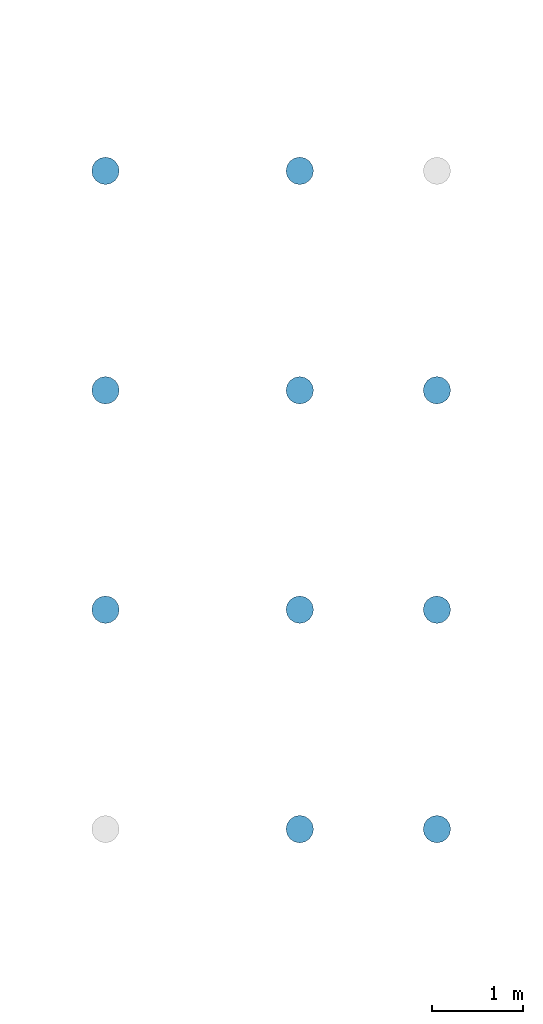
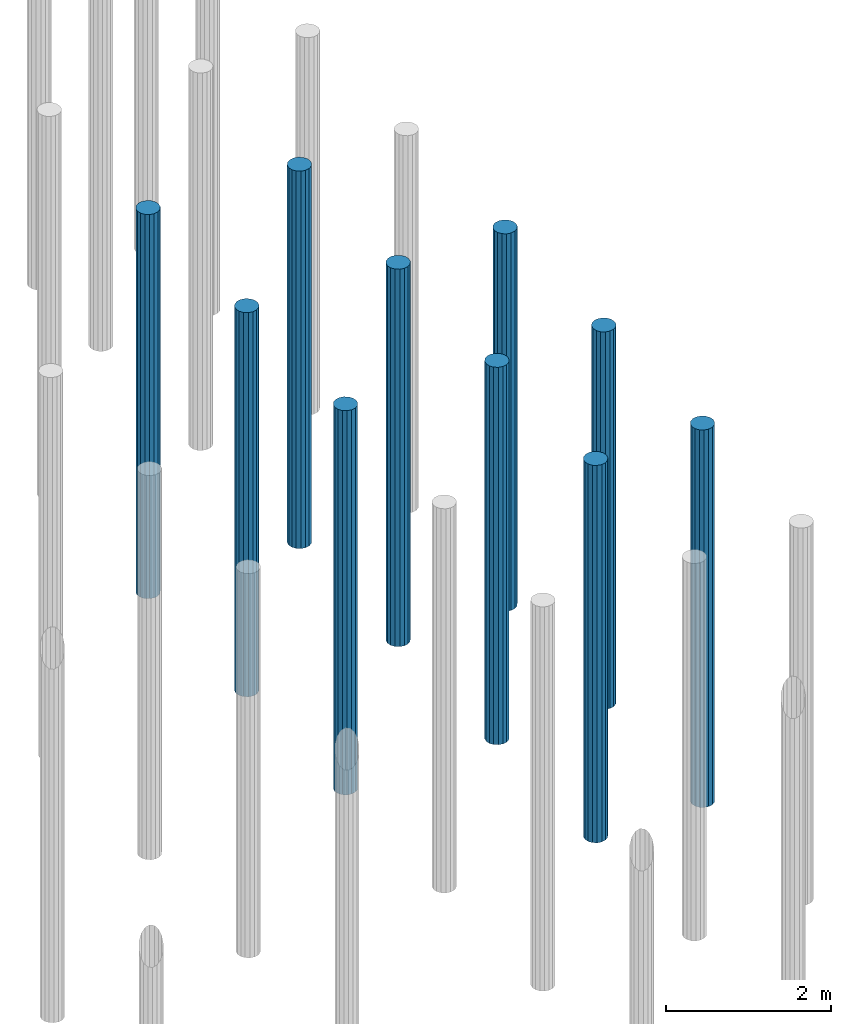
# One storey, part 99 of 102: 10 slabs.
"""IFC2X3 building model written with IfcOpenShell, lengths in millimetres."""

import ifcopenshell
import ifcopenshell.guid

model = None  # the IFC model being written
_history = None  # IfcOwnerHistory: only IFC2X3 demands one
_inside = {}  # id of a spatial element -> (the spatial element, [elements in it])
_under = {}  # id of a project, library or spatial element -> (it, [spatial elements below it])
_declared = {}  # id of a project -> (the project, [libraries it declares])
_typed = {}  # id of a type object -> (the type object, [elements of that type])
_made_of = {}  # id of a material, layer set ... -> (it, [elements and type objects made of it])


def new_model(schema):
    """Start an empty IFC model of exactly this schema.

    Asked for "IFC4X3", IfcOpenShell would pick the latest addendum, in which some entities
    have other attributes; the version numbers below select the first issue.
    IFC2X3 requires an IfcOwnerHistory on every rooted entity: one is made here for all.
    """
    global model, _history
    if schema == "IFC4X3":
        model = ifcopenshell.file(schema_version=(4, 3, 0, 0))
    else:
        model = ifcopenshell.file(schema=schema)
    _inside.clear()
    _under.clear()
    _declared.clear()
    _typed.clear()
    _made_of.clear()
    _history = None
    if model.schema == "IFC2X3":
        org = make("IfcOrganization", Name="unknown")
        user = make(
            "IfcPersonAndOrganization",
            ThePerson=make("IfcPerson", FamilyName="unknown"),
            TheOrganization=org,
        )
        app = make(
            "IfcApplication",
            ApplicationDeveloper=org,
            Version="unknown",
            ApplicationFullName="unknown",
            ApplicationIdentifier="unknown",
        )
        _history = make(
            "IfcOwnerHistory",
            OwningUser=user,
            OwningApplication=app,
            ChangeAction="ADDED",
            CreationDate=0,
        )
    return model


def make(cls, **values):
    """One entity of the class cls with the attributes given. An attribute that is None is left unset."""
    return model.create_entity(
        cls, **{name: value for name, value in values.items() if value is not None}
    )


def entity(cls, *values):
    """Any entity or typed value of the class cls, its attributes in the order of the schema. None: left unset."""
    e = model.create_entity(cls)
    for i, value in enumerate(values):
        if value is not None:
            e[i] = value
    return e


def rooted(cls, **values):
    """An entity with a GlobalId (a new one), such as an element, a storey or a relation."""
    return make(cls, GlobalId=ifcopenshell.guid.new(), OwnerHistory=_history, **values)


def si_unit(unit_type, name, prefix=None):
    """IfcSIUnit, for example si_unit("LENGTHUNIT", "METRE", prefix="MILLI")."""
    return make("IfcSIUnit", UnitType=unit_type, Prefix=prefix, Name=name)


def converted_unit(unit_type, name, factor, base, dimensions=None, offset=None):
    """IfcConversionBasedUnit, such as the inch: factor (a typed value) times the base unit."""
    return make(
        "IfcConversionBasedUnit"
        if offset is None
        else "IfcConversionBasedUnitWithOffset",
        ConversionOffset=offset,
        Dimensions=None
        if dimensions is None
        else entity("IfcDimensionalExponents", *dimensions),
        UnitType=unit_type,
        Name=name,
        ConversionFactor=make(
            "IfcMeasureWithUnit", ValueComponent=factor, UnitComponent=base
        ),
    )


def derived_unit(unit_type, elements):
    """IfcDerivedUnit: a product of units, each with its exponent."""
    return make(
        "IfcDerivedUnit",
        Elements=[
            make("IfcDerivedUnitElement", Unit=unit, Exponent=power)
            for unit, power in elements
        ],
        UnitType=unit_type,
    )


def money_unit(currency):
    """IfcMonetaryUnit."""
    return make("IfcMonetaryUnit", Currency=currency)


def assignment(units):
    """IfcUnitAssignment: the units of a project."""
    return None if units is None else make("IfcUnitAssignment", Units=units)


def point(xyz):
    """IfcCartesianPoint."""
    return None if xyz is None else make("IfcCartesianPoint", Coordinates=xyz)


def direction(xyz):
    """IfcDirection."""
    return None if xyz is None else make("IfcDirection", DirectionRatios=xyz)


def frame(location, z_axis=None, x_axis=None):
    """IfcAxis2Placement3D, a coordinate frame: its origin and axes. An axis left out is left unset."""
    return make(
        "IfcAxis2Placement3D",
        Location=point(location),
        Axis=direction(z_axis),
        RefDirection=direction(x_axis),
    )


def origin_with_axes():
    """The frame at (0, 0, 0) with the z axis (0, 0, 1) and the x axis (1, 0, 0) written out."""
    return frame((0.0, 0.0, 0.0), z_axis=(0.0, 0.0, 1.0), x_axis=(1.0, 0.0, 0.0))


def place(relative_to, where):
    """IfcLocalPlacement: puts the frame where relative to a parent placement (None: the world)."""
    return make(
        "IfcLocalPlacement", PlacementRelTo=relative_to, RelativePlacement=where
    )


def context(
    kind, dimensions, precision=None, world=None, true_north=None, identifier=None
):
    """IfcGeometricRepresentationContext, for example the 3D "Model" context."""
    return make(
        "IfcGeometricRepresentationContext",
        ContextIdentifier=identifier,
        ContextType=kind,
        CoordinateSpaceDimension=dimensions,
        Precision=precision,
        WorldCoordinateSystem=world,
        TrueNorth=true_north,
    )


def subcontext(parent, identifier, kind, view, scale=None):
    """IfcGeometricRepresentationSubContext, for example "Body" below "Model"."""
    return make(
        "IfcGeometricRepresentationSubContext",
        ContextIdentifier=identifier,
        ContextType=kind,
        ParentContext=parent,
        TargetScale=scale,
        TargetView=view,
    )


def project(units=None, contexts=None):
    """IfcProject with its units and contexts."""
    return rooted(
        "IfcProject",
        Name="project",
        RepresentationContexts=contexts,
        UnitsInContext=assignment(units),
    )


def spatial(cls, under=None, at=None, **own):
    """A site, building, storey or space (cls), placed at a placement, below another one or the project."""
    s = rooted(cls, ObjectPlacement=at, **own)
    if under is not None:
        _under.setdefault(under.id(), (under, []))[1].append(s)
    return s


def faces_of(points, faces, orient=None, outer=None):
    """IfcFace entities. A face is a list of loops; a loop is a list of indices into points, from 0.

    orient and outer hold one flag for each loop. By default every Orientation is true, the
    first loop of a face is its IfcFaceOuterBound and the others are IfcFaceBound.
    """
    made = []
    for i, loops in enumerate(faces):
        bounds = []
        for j, loop in enumerate(loops):
            is_outer = j == 0 if outer is None else outer[i][j]
            bounds.append(
                make(
                    "IfcFaceOuterBound" if is_outer else "IfcFaceBound",
                    Bound=make("IfcPolyLoop", Polygon=[points[k] for k in loop]),
                    Orientation=True if orient is None else orient[i][j],
                )
            )
        made.append(make("IfcFace", Bounds=bounds))
    return made


def faceted_brep(points, faces, orient=None, outer=None, voids=None):
    """IfcFacetedBrep: a solid bounded by flat faces; with voids (closed shells), ...WithVoids."""
    shared = [point(p) for p in points]
    hull = make("IfcClosedShell", CfsFaces=faces_of(shared, faces, orient, outer))
    if voids is None:
        return make("IfcFacetedBrep", Outer=hull)
    return make(
        "IfcFacetedBrepWithVoids",
        Outer=hull,
        Voids=[
            make(cls, CfsFaces=faces_of(shared, fs, o, b)) for cls, fs, o, b in voids
        ],
    )


def shape(context_of_items, identifier, shape_type, items):
    """IfcShapeRepresentation: the items that make up one representation, for example the "Body"."""
    return make(
        "IfcShapeRepresentation",
        ContextOfItems=context_of_items,
        RepresentationIdentifier=identifier,
        RepresentationType=shape_type,
        Items=items,
    )


def material(Name=None, Category=None):
    """IfcMaterial."""
    return make("IfcMaterial", Name=Name, Category=Category)


def made_of(thing, what):
    """Note that an element or type object is made of a material, layer set ...; save() writes the relation."""
    if what is not None:
        _made_of.setdefault(what.id(), (what, []))[1].append(thing)
    return thing


def type_object(cls, material=None, **own):
    """A type object (cls), such as IfcWallType, which elements share."""
    return made_of(rooted(cls, **own), material)


def element(
    cls,
    number,
    at=None,
    inside=None,
    cuts=None,
    type_object=None,
    material=None,
    context=None,
    identifier="Body",
    shape_type=None,
    held_by="IfcProductDefinitionShape",
    body=None,
    shapes=None,
    **own,
):
    """One element of the class cls, such as IfcWall. Its Tag is "e" and its number.

    at: its placement. inside: the storey or other place that contains it. cuts: it is an
    opening in that element (IfcRelVoidsElement). A single representation is given by context,
    identifier, shape_type and body (its items); several are given by shapes. held_by: the class
    of the entity that holds the representations. save() writes the other relations.
    """
    e = rooted(cls, Tag="e%d" % number, ObjectPlacement=at, **own)
    if body is not None:
        shapes = [shape(context, identifier, shape_type, body)]
    if shapes is not None:
        e.Representation = make(held_by, Representations=shapes)
    if inside is not None:
        _inside.setdefault(inside.id(), (inside, []))[1].append(e)
    if cuts is not None:
        rooted(
            "IfcRelVoidsElement", RelatingBuildingElement=cuts, RelatedOpeningElement=e
        )
    if type_object is not None:
        _typed.setdefault(type_object.id(), (type_object, []))[1].append(e)
    return made_of(e, material)


def aggregate(whole, parts):
    """IfcRelAggregates: a whole, such as a stair, and the parts it consists of."""
    return rooted("IfcRelAggregates", RelatingObject=whole, RelatedObjects=parts)


def save(model, path):
    """Write the relations noted so far, then the file.

    IfcRelAggregates (storeys below a building ...), IfcRelContainedInSpatialStructure (elements
    in a storey), IfcRelDefinesByType, IfcRelAssociatesMaterial and IfcRelDeclares: one each for
    every whole, place, type object, material and project.
    """
    for whole, parts in _under.values():
        aggregate(whole, parts)
    for where, things in _inside.values():
        rooted(
            "IfcRelContainedInSpatialStructure",
            RelatedElements=things,
            RelatingStructure=where,
        )
    for kind, things in _typed.values():
        rooted("IfcRelDefinesByType", RelatedObjects=things, RelatingType=kind)
    for what, things in _made_of.values():
        rooted("IfcRelAssociatesMaterial", RelatedObjects=things, RelatingMaterial=what)
    for by, libraries in _declared.values():
        rooted("IfcRelDeclares", RelatingContext=by, RelatedDefinitions=libraries)
    model.write(path)


model = new_model("IFC2X3")

# Units and contexts
model_context = context("Model", 3, precision=0.01, world=origin_with_axes(), true_north=direction((0.0, 1.0)))
body_context = subcontext(model_context, "Body", "Model", "MODEL_VIEW")
ifc_project = project(units=[si_unit("LENGTHUNIT", "METRE", prefix="MILLI"), si_unit("AREAUNIT", "SQUARE_METRE"), si_unit("VOLUMEUNIT", "CUBIC_METRE"), converted_unit("PLANEANGLEUNIT", "DEGREE", entity("IfcPlaneAngleMeasure", 0.0174532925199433), si_unit("PLANEANGLEUNIT", "RADIAN"), dimensions=[0, 0, 0, 0, 0, 0, 0]), money_unit("EUR"), converted_unit("TIMEUNIT", "Year", entity("IfcTimeMeasure", 31557600.0), si_unit("TIMEUNIT", "SECOND"), dimensions=[0, 0, 1, 0, 0, 0, 0]), si_unit("MASSUNIT", "GRAM", prefix="KILO"), si_unit("THERMODYNAMICTEMPERATUREUNIT", "DEGREE_CELSIUS"), si_unit("LUMINOUSINTENSITYUNIT", "LUMEN"), si_unit("ENERGYUNIT", "JOULE", prefix="MEGA"), derived_unit("THERMALCONDUCTANCEUNIT", [(si_unit("POWERUNIT", "WATT"), 1), (si_unit("LENGTHUNIT", "METRE"), -1), (si_unit("THERMODYNAMICTEMPERATUREUNIT", "KELVIN"), -1)]), derived_unit("SPECIFICHEATCAPACITYUNIT", [(si_unit("ENERGYUNIT", "JOULE"), 1), (si_unit("MASSUNIT", "GRAM", prefix="KILO"), -1), (si_unit("THERMODYNAMICTEMPERATUREUNIT", "KELVIN"), -1)]), derived_unit("MASSDENSITYUNIT", [(si_unit("MASSUNIT", "GRAM", prefix="KILO"), 1), (si_unit("VOLUMEUNIT", "CUBIC_METRE"), -1)])], contexts=[model_context])

# Site, building, storey
site_placement = place(None, origin_with_axes())
site = spatial("IfcSite", under=ifc_project, at=site_placement, Name="Site", CompositionType="ELEMENT")
building_placement = place(site_placement, origin_with_axes())
building = spatial("IfcBuilding", under=site, at=building_placement, Name="Naam gebouw", CompositionType="ELEMENT")
storey_placement = place(building_placement, frame((0.0, 0.0, -1020.0), z_axis=(0.0, 0.0, 1.0), x_axis=(1.0, 0.0, 0.0)))
storey = spatial("IfcBuildingStorey", under=building, at=storey_placement, Name="-2 fundering", CompositionType="ELEMENT", Elevation=-1020.0)

# Slabs
ifc_material = material(Name="WSP_beton - ihwg beton")
slab_type_1 = type_object("IfcSlabType", Name="Slab 35", PredefinedType="NOTDEFINED")
slab_1_placement = place(storey_placement, frame((25299.99999999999, 30000.0, 979.9999952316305), z_axis=(0.0, 0.0, 1.0), x_axis=(1.0, 0.0, 0.0)))
element("IfcSlab", 1, at=slab_1_placement, inside=storey, type_object=slab_type_1, material=ifc_material, Name="17_WSP_FD_beton - fundatiepaal v21-2:ø300 (schroef)", PredefinedType="NOTDEFINED", context=body_context, shape_type="Brep", body=[
    faceted_brep([(101501.0, 80801.0, -5980.0), (101499.0, 80801.0, -5980.0), (101499.0, 80801.0, -5978.000000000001), (101501.0, 80801.0, -5978.000000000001), (101501.0, 80798.99999999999, -5980.0), (101499.0, 80798.99999999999, -5980.0), (101499.0, 80798.99999999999, -5978.000000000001), (101501.0, 80798.99999999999, -5978.000000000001)], [[[0, 1, 2, 3]], [[0, 4, 5, 1]], [[1, 5, 6, 2]], [[3, 2, 6, 7]], [[4, 0, 3, 7]], [[5, 4, 7, 6]]]),
    faceted_brep([(101350.0, 80800.0, -5980.0), (101361.4180701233, 80742.59748514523, -5980.0), (101361.4180701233, 80742.59748514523, -380.0000000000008), (101350.0, 80800.0, -380.0000000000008), (101361.4180701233, 80857.40251485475, -5980.0), (101393.933982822, 80906.06601717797, -5980.0), (101442.5974851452, 80938.58192987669, -5980.0), (101500.0, 80950.0, -5980.0), (101557.4025148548, 80938.58192987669, -5980.0), (101606.066017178, 80906.06601717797, -5980.0), (101638.5819298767, 80857.40251485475, -5980.0), (101650.0, 80800.0, -5980.0), (101638.5819298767, 80742.59748514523, -5980.0), (101606.066017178, 80693.93398282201, -5980.0), (101557.4025148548, 80661.4180701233, -5980.0), (101500.0, 80649.99999999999, -5980.0), (101442.5974851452, 80661.4180701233, -5980.0), (101393.933982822, 80693.93398282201, -5980.0), (101393.933982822, 80693.93398282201, -380.0000000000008), (101442.5974851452, 80661.4180701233, -380.0000000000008), (101500.0, 80649.99999999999, -380.0000000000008), (101557.4025148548, 80661.4180701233, -380.0000000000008), (101606.066017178, 80693.93398282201, -380.0000000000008), (101638.5819298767, 80742.59748514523, -380.0000000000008), (101650.0, 80800.0, -380.0000000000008), (101638.5819298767, 80857.40251485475, -380.0000000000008), (101606.066017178, 80906.06601717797, -380.0000000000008), (101557.4025148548, 80938.58192987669, -380.0000000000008), (101500.0, 80950.0, -380.0000000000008), (101442.5974851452, 80938.58192987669, -380.0000000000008), (101393.933982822, 80906.06601717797, -380.0000000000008), (101361.4180701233, 80857.40251485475, -380.0000000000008)], [[[0, 1, 2, 3]], [[0, 4, 5, 6, 7, 8, 9, 10, 11, 12, 13, 14, 15, 16, 17, 1]], [[1, 17, 18, 2]], [[3, 2, 18, 19, 20, 21, 22, 23, 24, 25, 26, 27, 28, 29, 30, 31]], [[4, 0, 3, 31]], [[5, 4, 31, 30]], [[6, 5, 30, 29]], [[7, 6, 29, 28]], [[8, 7, 28, 27]], [[9, 8, 27, 26]], [[10, 9, 26, 25]], [[11, 10, 25, 24]], [[12, 11, 24, 23]], [[13, 12, 23, 22]], [[14, 13, 22, 21]], [[15, 14, 21, 20]], [[16, 15, 20, 19]], [[17, 16, 19, 18]]]),
])
slab_type_2 = type_object("IfcSlabType", Name="Slab 34", PredefinedType="NOTDEFINED")
slab_2_placement = place(storey_placement, frame((25299.99999999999, 30000.0, 979.9999952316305), z_axis=(0.0, 0.0, 1.0), x_axis=(1.0, 0.0, 0.0)))
element("IfcSlab", 2, at=slab_2_placement, inside=storey, type_object=slab_type_2, material=ifc_material, Name="17_WSP_FD_beton - fundatiepaal v21-2:ø300 (schroef)", PredefinedType="NOTDEFINED", context=body_context, shape_type="Brep", body=[
    faceted_brep([(100001.0, 80801.0, -5980.0), (99999.0, 80801.0, -5980.0), (99999.0, 80801.0, -5978.000000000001), (100001.0, 80801.0, -5978.000000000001), (100001.0, 80798.99999999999, -5980.0), (99999.0, 80798.99999999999, -5980.0), (99999.0, 80798.99999999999, -5978.000000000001), (100001.0, 80798.99999999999, -5978.000000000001)], [[[0, 1, 2, 3]], [[0, 4, 5, 1]], [[1, 5, 6, 2]], [[3, 2, 6, 7]], [[4, 0, 3, 7]], [[5, 4, 7, 6]]]),
    faceted_brep([(99850.0, 80800.0, -5980.0), (99861.41807012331, 80742.59748514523, -5980.0), (99861.41807012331, 80742.59748514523, -380.0000000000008), (99850.0, 80800.0, -380.0000000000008), (99861.41807012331, 80857.40251485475, -5980.0), (99893.93398282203, 80906.06601717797, -5980.0), (99942.59748514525, 80938.58192987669, -5980.0), (100000.0, 80950.0, -5980.0), (100057.4025148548, 80938.58192987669, -5980.0), (100106.066017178, 80906.06601717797, -5980.0), (100138.5819298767, 80857.40251485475, -5980.0), (100150.0, 80800.0, -5980.0), (100138.5819298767, 80742.59748514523, -5980.0), (100106.066017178, 80693.93398282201, -5980.0), (100057.4025148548, 80661.4180701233, -5980.0), (100000.0, 80649.99999999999, -5980.0), (99942.59748514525, 80661.4180701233, -5980.0), (99893.93398282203, 80693.93398282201, -5980.0), (99893.93398282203, 80693.93398282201, -380.0000000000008), (99942.59748514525, 80661.4180701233, -380.0000000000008), (100000.0, 80649.99999999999, -380.0000000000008), (100057.4025148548, 80661.4180701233, -380.0000000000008), (100106.066017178, 80693.93398282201, -380.0000000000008), (100138.5819298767, 80742.59748514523, -380.0000000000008), (100150.0, 80800.0, -380.0000000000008), (100138.5819298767, 80857.40251485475, -380.0000000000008), (100106.066017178, 80906.06601717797, -380.0000000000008), (100057.4025148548, 80938.58192987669, -380.0000000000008), (100000.0, 80950.0, -380.0000000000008), (99942.59748514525, 80938.58192987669, -380.0000000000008), (99893.93398282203, 80906.06601717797, -380.0000000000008), (99861.41807012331, 80857.40251485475, -380.0000000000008)], [[[0, 1, 2, 3]], [[0, 4, 5, 6, 7, 8, 9, 10, 11, 12, 13, 14, 15, 16, 17, 1]], [[1, 17, 18, 2]], [[3, 2, 18, 19, 20, 21, 22, 23, 24, 25, 26, 27, 28, 29, 30, 31]], [[4, 0, 3, 31]], [[5, 4, 31, 30]], [[6, 5, 30, 29]], [[7, 6, 29, 28]], [[8, 7, 28, 27]], [[9, 8, 27, 26]], [[10, 9, 26, 25]], [[11, 10, 25, 24]], [[12, 11, 24, 23]], [[13, 12, 23, 22]], [[14, 13, 22, 21]], [[15, 14, 21, 20]], [[16, 15, 20, 19]], [[17, 16, 19, 18]]]),
])
slab_type_3 = type_object("IfcSlabType", Name="Slab 37", PredefinedType="NOTDEFINED")
slab_3_placement = place(storey_placement, frame((25299.99999999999, 30000.0, 979.9999952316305), z_axis=(0.0, 0.0, 1.0), x_axis=(1.0, 0.0, 0.0)))
element("IfcSlab", 3, at=slab_3_placement, inside=storey, type_object=slab_type_3, material=ifc_material, Name="17_WSP_FD_beton - fundatiepaal v21-2:ø300 (schroef)", PredefinedType="NOTDEFINED", context=body_context, shape_type="Brep", body=[
    faceted_brep([(97876.0, 80801.0, -5980.0), (97874.0, 80801.0, -5980.0), (97874.0, 80801.0, -5978.000000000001), (97876.0, 80801.0, -5978.000000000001), (97876.0, 80798.99999999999, -5980.0), (97874.0, 80798.99999999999, -5980.0), (97874.0, 80798.99999999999, -5978.000000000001), (97876.0, 80798.99999999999, -5978.000000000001)], [[[0, 1, 2, 3]], [[0, 4, 5, 1]], [[1, 5, 6, 2]], [[3, 2, 6, 7]], [[4, 0, 3, 7]], [[5, 4, 7, 6]]]),
    faceted_brep([(97725.0, 80800.0, -5980.0), (97736.41807012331, 80742.59748514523, -5980.0), (97736.41807012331, 80742.59748514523, -280.0000000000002), (97725.0, 80800.0, -280.0000000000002), (97736.41807012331, 80857.40251485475, -5980.0), (97768.93398282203, 80906.06601717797, -5980.0), (97817.59748514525, 80938.58192987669, -5980.0), (97875.0, 80950.0, -5980.0), (97932.40251485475, 80938.58192987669, -5980.0), (97981.06601717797, 80906.06601717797, -5980.0), (98013.58192987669, 80857.40251485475, -5980.0), (98025.0, 80800.0, -5980.0), (98013.58192987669, 80742.59748514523, -5980.0), (97981.06601717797, 80693.93398282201, -5980.0), (97932.40251485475, 80661.4180701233, -5980.0), (97875.0, 80649.99999999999, -5980.0), (97817.59748514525, 80661.4180701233, -5980.0), (97768.93398282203, 80693.93398282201, -5980.0), (97768.93398282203, 80693.93398282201, -280.0000000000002), (97817.59748514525, 80661.4180701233, -280.0000000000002), (97875.0, 80649.99999999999, -280.0000000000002), (97932.40251485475, 80661.4180701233, -280.0000000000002), (97981.06601717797, 80693.93398282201, -280.0000000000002), (98013.58192987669, 80742.59748514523, -280.0000000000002), (98025.0, 80800.0, -280.0000000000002), (98013.58192987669, 80857.40251485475, -280.0000000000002), (97981.06601717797, 80906.06601717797, -280.0000000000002), (97932.40251485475, 80938.58192987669, -280.0000000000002), (97875.0, 80950.0, -280.0000000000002), (97817.59748514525, 80938.58192987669, -280.0000000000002), (97768.93398282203, 80906.06601717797, -280.0000000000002), (97736.41807012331, 80857.40251485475, -280.0000000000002)], [[[0, 1, 2, 3]], [[0, 4, 5, 6, 7, 8, 9, 10, 11, 12, 13, 14, 15, 16, 17, 1]], [[1, 17, 18, 2]], [[3, 2, 18, 19, 20, 21, 22, 23, 24, 25, 26, 27, 28, 29, 30, 31]], [[4, 0, 3, 31]], [[5, 4, 31, 30]], [[6, 5, 30, 29]], [[7, 6, 29, 28]], [[8, 7, 28, 27]], [[9, 8, 27, 26]], [[10, 9, 26, 25]], [[11, 10, 25, 24]], [[12, 11, 24, 23]], [[13, 12, 23, 22]], [[14, 13, 22, 21]], [[15, 14, 21, 20]], [[16, 15, 20, 19]], [[17, 16, 19, 18]]]),
])
slab_type_4 = type_object("IfcSlabType", Name="Slab 855", PredefinedType="NOTDEFINED")
slab_4_placement = place(storey_placement, frame((25299.99999999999, 30000.0, 979.9999952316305), z_axis=(0.0, 0.0, 1.0), x_axis=(1.0, 0.0, 0.0)))
element("IfcSlab", 4, at=slab_4_placement, inside=storey, type_object=slab_type_4, material=ifc_material, Name="17_WSP_FD_beton - fundatiepaal v21-2:ø300 (schroef)", PredefinedType="NOTDEFINED", context=body_context, shape_type="Brep", body=[
    faceted_brep([(97876.0, 83201.00000000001, -5980.0), (97874.0, 83201.00000000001, -5980.0), (97874.0, 83201.00000000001, -5978.000000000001), (97876.0, 83201.00000000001, -5978.000000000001), (97876.0, 83199.0, -5980.0), (97874.0, 83199.0, -5980.0), (97874.0, 83199.0, -5978.000000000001), (97876.0, 83199.0, -5978.000000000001)], [[[0, 1, 2, 3]], [[0, 4, 5, 1]], [[1, 5, 6, 2]], [[3, 2, 6, 7]], [[4, 0, 3, 7]], [[5, 4, 7, 6]]]),
    faceted_brep([(97725.0, 83200.0, -5980.0), (97736.41807012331, 83142.59748514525, -5980.0), (97736.41807012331, 83142.59748514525, -280.0000000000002), (97725.0, 83200.0, -280.0000000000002), (97736.41807012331, 83257.40251485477, -5980.0), (97768.93398282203, 83306.06601717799, -5980.0), (97817.59748514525, 83338.5819298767, -5980.0), (97875.0, 83350.00000000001, -5980.0), (97932.40251485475, 83338.5819298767, -5980.0), (97981.06601717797, 83306.06601717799, -5980.0), (98013.58192987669, 83257.40251485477, -5980.0), (98025.0, 83200.0, -5980.0), (98013.58192987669, 83142.59748514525, -5980.0), (97981.06601717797, 83093.93398282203, -5980.0), (97932.40251485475, 83061.41807012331, -5980.0), (97875.0, 83050.0, -5980.0), (97817.59748514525, 83061.41807012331, -5980.0), (97768.93398282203, 83093.93398282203, -5980.0), (97768.93398282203, 83093.93398282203, -280.0000000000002), (97817.59748514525, 83061.41807012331, -280.0000000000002), (97875.0, 83050.0, -280.0000000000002), (97932.40251485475, 83061.41807012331, -280.0000000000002), (97981.06601717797, 83093.93398282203, -280.0000000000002), (98013.58192987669, 83142.59748514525, -280.0000000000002), (98025.0, 83200.0, -280.0000000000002), (98013.58192987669, 83257.40251485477, -280.0000000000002), (97981.06601717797, 83306.06601717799, -280.0000000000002), (97932.40251485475, 83338.5819298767, -280.0000000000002), (97875.0, 83350.00000000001, -280.0000000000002), (97817.59748514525, 83338.5819298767, -280.0000000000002), (97768.93398282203, 83306.06601717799, -280.0000000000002), (97736.41807012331, 83257.40251485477, -280.0000000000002)], [[[0, 1, 2, 3]], [[0, 4, 5, 6, 7, 8, 9, 10, 11, 12, 13, 14, 15, 16, 17, 1]], [[1, 17, 18, 2]], [[3, 2, 18, 19, 20, 21, 22, 23, 24, 25, 26, 27, 28, 29, 30, 31]], [[4, 0, 3, 31]], [[5, 4, 31, 30]], [[6, 5, 30, 29]], [[7, 6, 29, 28]], [[8, 7, 28, 27]], [[9, 8, 27, 26]], [[10, 9, 26, 25]], [[11, 10, 25, 24]], [[12, 11, 24, 23]], [[13, 12, 23, 22]], [[14, 13, 22, 21]], [[15, 14, 21, 20]], [[16, 15, 20, 19]], [[17, 16, 19, 18]]]),
])
slab_type_5 = type_object("IfcSlabType", Name="Slab 856", PredefinedType="NOTDEFINED")
slab_5_placement = place(storey_placement, frame((25299.99999999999, 30000.0, 979.9999952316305), z_axis=(0.0, 0.0, 1.0), x_axis=(1.0, 0.0, 0.0)))
element("IfcSlab", 5, at=slab_5_placement, inside=storey, type_object=slab_type_5, material=ifc_material, Name="17_WSP_FD_beton - fundatiepaal v21-2:ø300 (schroef)", PredefinedType="NOTDEFINED", context=body_context, shape_type="Brep", body=[
    faceted_brep([(100001.0, 83201.00000000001, -5980.0), (99999.0, 83201.00000000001, -5980.0), (99999.0, 83201.00000000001, -5978.000000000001), (100001.0, 83201.00000000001, -5978.000000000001), (100001.0, 83199.0, -5980.0), (99999.0, 83199.0, -5980.0), (99999.0, 83199.0, -5978.000000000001), (100001.0, 83199.0, -5978.000000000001)], [[[0, 1, 2, 3]], [[0, 4, 5, 1]], [[1, 5, 6, 2]], [[3, 2, 6, 7]], [[4, 0, 3, 7]], [[5, 4, 7, 6]]]),
    faceted_brep([(99850.0, 83200.0, -5980.0), (99861.41807012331, 83142.59748514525, -5980.0), (99861.41807012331, 83142.59748514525, -380.0000000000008), (99850.0, 83200.0, -380.0000000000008), (99861.41807012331, 83257.40251485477, -5980.0), (99893.93398282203, 83306.06601717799, -5980.0), (99942.59748514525, 83338.5819298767, -5980.0), (100000.0, 83350.00000000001, -5980.0), (100057.4025148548, 83338.5819298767, -5980.0), (100106.066017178, 83306.06601717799, -5980.0), (100138.5819298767, 83257.40251485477, -5980.0), (100150.0, 83200.0, -5980.0), (100138.5819298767, 83142.59748514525, -5980.0), (100106.066017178, 83093.93398282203, -5980.0), (100057.4025148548, 83061.41807012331, -5980.0), (100000.0, 83050.0, -5980.0), (99942.59748514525, 83061.41807012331, -5980.0), (99893.93398282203, 83093.93398282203, -5980.0), (99893.93398282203, 83093.93398282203, -380.0000000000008), (99942.59748514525, 83061.41807012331, -380.0000000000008), (100000.0, 83050.0, -380.0000000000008), (100057.4025148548, 83061.41807012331, -380.0000000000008), (100106.066017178, 83093.93398282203, -380.0000000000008), (100138.5819298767, 83142.59748514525, -380.0000000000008), (100150.0, 83200.0, -380.0000000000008), (100138.5819298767, 83257.40251485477, -380.0000000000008), (100106.066017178, 83306.06601717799, -380.0000000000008), (100057.4025148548, 83338.5819298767, -380.0000000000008), (100000.0, 83350.00000000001, -380.0000000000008), (99942.59748514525, 83338.5819298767, -380.0000000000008), (99893.93398282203, 83306.06601717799, -380.0000000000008), (99861.41807012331, 83257.40251485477, -380.0000000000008)], [[[0, 1, 2, 3]], [[0, 4, 5, 6, 7, 8, 9, 10, 11, 12, 13, 14, 15, 16, 17, 1]], [[1, 17, 18, 2]], [[3, 2, 18, 19, 20, 21, 22, 23, 24, 25, 26, 27, 28, 29, 30, 31]], [[4, 0, 3, 31]], [[5, 4, 31, 30]], [[6, 5, 30, 29]], [[7, 6, 29, 28]], [[8, 7, 28, 27]], [[9, 8, 27, 26]], [[10, 9, 26, 25]], [[11, 10, 25, 24]], [[12, 11, 24, 23]], [[13, 12, 23, 22]], [[14, 13, 22, 21]], [[15, 14, 21, 20]], [[16, 15, 20, 19]], [[17, 16, 19, 18]]]),
])
slab_type_6 = type_object("IfcSlabType", Name="Slab 892", PredefinedType="NOTDEFINED")
slab_6_placement = place(storey_placement, frame((25299.99999999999, 30000.0, 979.9999952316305), z_axis=(0.0, 0.0, 1.0), x_axis=(1.0, 0.0, 0.0)))
element("IfcSlab", 6, at=slab_6_placement, inside=storey, type_object=slab_type_6, material=ifc_material, Name="17_WSP_FD_beton - fundatiepaal v21-2:ø300 (schroef)", PredefinedType="NOTDEFINED", context=body_context, shape_type="Brep", body=[
    faceted_brep([(97876.0, 78401.00000000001, -5980.0), (97874.0, 78401.00000000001, -5980.0), (97874.0, 78401.00000000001, -5978.000000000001), (97876.0, 78401.00000000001, -5978.000000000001), (97876.0, 78399.0, -5980.0), (97874.0, 78399.0, -5980.0), (97874.0, 78399.0, -5978.000000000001), (97876.0, 78399.0, -5978.000000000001)], [[[0, 1, 2, 3]], [[0, 4, 5, 1]], [[1, 5, 6, 2]], [[3, 2, 6, 7]], [[4, 0, 3, 7]], [[5, 4, 7, 6]]]),
    faceted_brep([(97725.0, 78400.0, -5980.0), (97736.41807012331, 78342.59748514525, -5980.0), (97736.41807012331, 78342.59748514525, -280.0000000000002), (97725.0, 78400.0, -280.0000000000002), (97736.41807012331, 78457.40251485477, -5980.0), (97768.93398282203, 78506.06601717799, -5980.0), (97817.59748514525, 78538.5819298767, -5980.0), (97875.0, 78550.00000000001, -5980.0), (97932.40251485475, 78538.5819298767, -5980.0), (97981.06601717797, 78506.06601717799, -5980.0), (98013.58192987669, 78457.40251485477, -5980.0), (98025.0, 78400.0, -5980.0), (98013.58192987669, 78342.59748514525, -5980.0), (97981.06601717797, 78293.93398282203, -5980.0), (97932.40251485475, 78261.41807012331, -5980.0), (97875.0, 78250.0, -5980.0), (97817.59748514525, 78261.41807012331, -5980.0), (97768.93398282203, 78293.93398282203, -5980.0), (97768.93398282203, 78293.93398282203, -280.0000000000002), (97817.59748514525, 78261.41807012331, -280.0000000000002), (97875.0, 78250.0, -280.0000000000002), (97932.40251485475, 78261.41807012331, -280.0000000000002), (97981.06601717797, 78293.93398282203, -280.0000000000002), (98013.58192987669, 78342.59748514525, -280.0000000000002), (98025.0, 78400.0, -280.0000000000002), (98013.58192987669, 78457.40251485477, -280.0000000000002), (97981.06601717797, 78506.06601717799, -280.0000000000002), (97932.40251485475, 78538.5819298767, -280.0000000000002), (97875.0, 78550.00000000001, -280.0000000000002), (97817.59748514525, 78538.5819298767, -280.0000000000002), (97768.93398282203, 78506.06601717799, -280.0000000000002), (97736.41807012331, 78457.40251485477, -280.0000000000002)], [[[0, 1, 2, 3]], [[0, 4, 5, 6, 7, 8, 9, 10, 11, 12, 13, 14, 15, 16, 17, 1]], [[1, 17, 18, 2]], [[3, 2, 18, 19, 20, 21, 22, 23, 24, 25, 26, 27, 28, 29, 30, 31]], [[4, 0, 3, 31]], [[5, 4, 31, 30]], [[6, 5, 30, 29]], [[7, 6, 29, 28]], [[8, 7, 28, 27]], [[9, 8, 27, 26]], [[10, 9, 26, 25]], [[11, 10, 25, 24]], [[12, 11, 24, 23]], [[13, 12, 23, 22]], [[14, 13, 22, 21]], [[15, 14, 21, 20]], [[16, 15, 20, 19]], [[17, 16, 19, 18]]]),
])
slab_type_7 = type_object("IfcSlabType", Name="Slab 893", PredefinedType="NOTDEFINED")
slab_7_placement = place(storey_placement, frame((25299.99999999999, 30000.0, 979.9999952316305), z_axis=(0.0, 0.0, 1.0), x_axis=(1.0, 0.0, 0.0)))
element("IfcSlab", 7, at=slab_7_placement, inside=storey, type_object=slab_type_7, material=ifc_material, Name="17_WSP_FD_beton - fundatiepaal v21-2:ø300 (schroef)", PredefinedType="NOTDEFINED", context=body_context, shape_type="Brep", body=[
    faceted_brep([(100001.0, 78401.00000000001, -5980.0), (99999.0, 78401.00000000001, -5980.0), (99999.0, 78401.00000000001, -5978.000000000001), (100001.0, 78401.00000000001, -5978.000000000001), (100001.0, 78399.0, -5980.0), (99999.0, 78399.0, -5980.0), (99999.0, 78399.0, -5978.000000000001), (100001.0, 78399.0, -5978.000000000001)], [[[0, 1, 2, 3]], [[0, 4, 5, 1]], [[1, 5, 6, 2]], [[3, 2, 6, 7]], [[4, 0, 3, 7]], [[5, 4, 7, 6]]]),
    faceted_brep([(99850.0, 78400.0, -5980.0), (99861.41807012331, 78342.59748514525, -5980.0), (99861.41807012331, 78342.59748514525, -380.0000000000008), (99850.0, 78400.0, -380.0000000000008), (99861.41807012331, 78457.40251485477, -5980.0), (99893.93398282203, 78506.06601717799, -5980.0), (99942.59748514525, 78538.5819298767, -5980.0), (100000.0, 78550.00000000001, -5980.0), (100057.4025148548, 78538.5819298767, -5980.0), (100106.066017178, 78506.06601717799, -5980.0), (100138.5819298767, 78457.40251485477, -5980.0), (100150.0, 78400.0, -5980.0), (100138.5819298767, 78342.59748514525, -5980.0), (100106.066017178, 78293.93398282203, -5980.0), (100057.4025148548, 78261.41807012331, -5980.0), (100000.0, 78250.0, -5980.0), (99942.59748514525, 78261.41807012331, -5980.0), (99893.93398282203, 78293.93398282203, -5980.0), (99893.93398282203, 78293.93398282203, -380.0000000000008), (99942.59748514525, 78261.41807012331, -380.0000000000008), (100000.0, 78250.0, -380.0000000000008), (100057.4025148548, 78261.41807012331, -380.0000000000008), (100106.066017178, 78293.93398282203, -380.0000000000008), (100138.5819298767, 78342.59748514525, -380.0000000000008), (100150.0, 78400.0, -380.0000000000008), (100138.5819298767, 78457.40251485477, -380.0000000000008), (100106.066017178, 78506.06601717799, -380.0000000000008), (100057.4025148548, 78538.5819298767, -380.0000000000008), (100000.0, 78550.00000000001, -380.0000000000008), (99942.59748514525, 78538.5819298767, -380.0000000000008), (99893.93398282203, 78506.06601717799, -380.0000000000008), (99861.41807012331, 78457.40251485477, -380.0000000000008)], [[[0, 1, 2, 3]], [[0, 4, 5, 6, 7, 8, 9, 10, 11, 12, 13, 14, 15, 16, 17, 1]], [[1, 17, 18, 2]], [[3, 2, 18, 19, 20, 21, 22, 23, 24, 25, 26, 27, 28, 29, 30, 31]], [[4, 0, 3, 31]], [[5, 4, 31, 30]], [[6, 5, 30, 29]], [[7, 6, 29, 28]], [[8, 7, 28, 27]], [[9, 8, 27, 26]], [[10, 9, 26, 25]], [[11, 10, 25, 24]], [[12, 11, 24, 23]], [[13, 12, 23, 22]], [[14, 13, 22, 21]], [[15, 14, 21, 20]], [[16, 15, 20, 19]], [[17, 16, 19, 18]]]),
])
slab_type_8 = type_object("IfcSlabType", Name="Slab 894", PredefinedType="NOTDEFINED")
slab_8_placement = place(storey_placement, frame((25299.99999999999, 30000.0, 979.9999952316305), z_axis=(0.0, 0.0, 1.0), x_axis=(1.0, 0.0, 0.0)))
element("IfcSlab", 8, at=slab_8_placement, inside=storey, type_object=slab_type_8, material=ifc_material, Name="17_WSP_FD_beton - fundatiepaal v21-2:ø300 (schroef)", PredefinedType="NOTDEFINED", context=body_context, shape_type="Brep", body=[
    faceted_brep([(101501.0, 78401.00000000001, -5980.0), (101499.0, 78401.00000000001, -5980.0), (101499.0, 78401.00000000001, -5978.000000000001), (101501.0, 78401.00000000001, -5978.000000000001), (101501.0, 78399.0, -5980.0), (101499.0, 78399.0, -5980.0), (101499.0, 78399.0, -5978.000000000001), (101501.0, 78399.0, -5978.000000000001)], [[[0, 1, 2, 3]], [[0, 4, 5, 1]], [[1, 5, 6, 2]], [[3, 2, 6, 7]], [[4, 0, 3, 7]], [[5, 4, 7, 6]]]),
    faceted_brep([(101350.0, 78400.0, -5980.0), (101361.4180701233, 78342.59748514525, -5980.0), (101361.4180701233, 78342.59748514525, -380.0000000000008), (101350.0, 78400.0, -380.0000000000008), (101361.4180701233, 78457.40251485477, -5980.0), (101393.933982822, 78506.06601717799, -5980.0), (101442.5974851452, 78538.5819298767, -5980.0), (101500.0, 78550.00000000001, -5980.0), (101557.4025148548, 78538.5819298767, -5980.0), (101606.066017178, 78506.06601717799, -5980.0), (101638.5819298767, 78457.40251485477, -5980.0), (101650.0, 78400.0, -5980.0), (101638.5819298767, 78342.59748514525, -5980.0), (101606.066017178, 78293.93398282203, -5980.0), (101557.4025148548, 78261.41807012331, -5980.0), (101500.0, 78250.0, -5980.0), (101442.5974851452, 78261.41807012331, -5980.0), (101393.933982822, 78293.93398282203, -5980.0), (101393.933982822, 78293.93398282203, -380.0000000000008), (101442.5974851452, 78261.41807012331, -380.0000000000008), (101500.0, 78250.0, -380.0000000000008), (101557.4025148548, 78261.41807012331, -380.0000000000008), (101606.066017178, 78293.93398282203, -380.0000000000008), (101638.5819298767, 78342.59748514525, -380.0000000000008), (101650.0, 78400.0, -380.0000000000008), (101638.5819298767, 78457.40251485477, -380.0000000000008), (101606.066017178, 78506.06601717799, -380.0000000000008), (101557.4025148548, 78538.5819298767, -380.0000000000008), (101500.0, 78550.00000000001, -380.0000000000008), (101442.5974851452, 78538.5819298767, -380.0000000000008), (101393.933982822, 78506.06601717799, -380.0000000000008), (101361.4180701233, 78457.40251485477, -380.0000000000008)], [[[0, 1, 2, 3]], [[0, 4, 5, 6, 7, 8, 9, 10, 11, 12, 13, 14, 15, 16, 17, 1]], [[1, 17, 18, 2]], [[3, 2, 18, 19, 20, 21, 22, 23, 24, 25, 26, 27, 28, 29, 30, 31]], [[4, 0, 3, 31]], [[5, 4, 31, 30]], [[6, 5, 30, 29]], [[7, 6, 29, 28]], [[8, 7, 28, 27]], [[9, 8, 27, 26]], [[10, 9, 26, 25]], [[11, 10, 25, 24]], [[12, 11, 24, 23]], [[13, 12, 23, 22]], [[14, 13, 22, 21]], [[15, 14, 21, 20]], [[16, 15, 20, 19]], [[17, 16, 19, 18]]]),
])
slab_type_9 = type_object("IfcSlabType", Name="Slab 896", PredefinedType="NOTDEFINED")
slab_9_placement = place(storey_placement, frame((25299.99999999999, 30000.0, 979.9999952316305), z_axis=(0.0, 0.0, 1.0), x_axis=(1.0, 0.0, 0.0)))
element("IfcSlab", 9, at=slab_9_placement, inside=storey, type_object=slab_type_9, material=ifc_material, Name="17_WSP_FD_beton - fundatiepaal v21-2:ø300 (schroef)", PredefinedType="NOTDEFINED", context=body_context, shape_type="Brep", body=[
    faceted_brep([(100001.0, 76001.0, -5980.0), (99999.0, 76001.0, -5980.0), (99999.0, 76001.0, -5978.000000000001), (100001.0, 76001.0, -5978.000000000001), (100001.0, 75999.0, -5980.0), (99999.0, 75999.0, -5980.0), (99999.0, 75999.0, -5978.000000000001), (100001.0, 75999.0, -5978.000000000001)], [[[0, 1, 2, 3]], [[0, 4, 5, 1]], [[1, 5, 6, 2]], [[3, 2, 6, 7]], [[4, 0, 3, 7]], [[5, 4, 7, 6]]]),
    faceted_brep([(99850.0, 76000.0, -5980.0), (99861.41807012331, 75942.59748514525, -5980.0), (99861.41807012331, 75942.59748514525, -380.0000000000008), (99850.0, 76000.0, -380.0000000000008), (99861.41807012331, 76057.40251485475, -5980.0), (99893.93398282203, 76106.06601717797, -5980.0), (99942.59748514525, 76138.58192987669, -5980.0), (100000.0, 76150.0, -5980.0), (100057.4025148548, 76138.58192987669, -5980.0), (100106.066017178, 76106.06601717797, -5980.0), (100138.5819298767, 76057.40251485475, -5980.0), (100150.0, 76000.0, -5980.0), (100138.5819298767, 75942.59748514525, -5980.0), (100106.066017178, 75893.93398282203, -5980.0), (100057.4025148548, 75861.41807012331, -5980.0), (100000.0, 75850.0, -5980.0), (99942.59748514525, 75861.41807012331, -5980.0), (99893.93398282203, 75893.93398282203, -5980.0), (99893.93398282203, 75893.93398282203, -380.0000000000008), (99942.59748514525, 75861.41807012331, -380.0000000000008), (100000.0, 75850.0, -380.0000000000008), (100057.4025148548, 75861.41807012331, -380.0000000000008), (100106.066017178, 75893.93398282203, -380.0000000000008), (100138.5819298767, 75942.59748514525, -380.0000000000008), (100150.0, 76000.0, -380.0000000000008), (100138.5819298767, 76057.40251485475, -380.0000000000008), (100106.066017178, 76106.06601717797, -380.0000000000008), (100057.4025148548, 76138.58192987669, -380.0000000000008), (100000.0, 76150.0, -380.0000000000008), (99942.59748514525, 76138.58192987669, -380.0000000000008), (99893.93398282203, 76106.06601717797, -380.0000000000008), (99861.41807012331, 76057.40251485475, -380.0000000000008)], [[[0, 1, 2, 3]], [[0, 4, 5, 6, 7, 8, 9, 10, 11, 12, 13, 14, 15, 16, 17, 1]], [[1, 17, 18, 2]], [[3, 2, 18, 19, 20, 21, 22, 23, 24, 25, 26, 27, 28, 29, 30, 31]], [[4, 0, 3, 31]], [[5, 4, 31, 30]], [[6, 5, 30, 29]], [[7, 6, 29, 28]], [[8, 7, 28, 27]], [[9, 8, 27, 26]], [[10, 9, 26, 25]], [[11, 10, 25, 24]], [[12, 11, 24, 23]], [[13, 12, 23, 22]], [[14, 13, 22, 21]], [[15, 14, 21, 20]], [[16, 15, 20, 19]], [[17, 16, 19, 18]]]),
])
slab_type_10 = type_object("IfcSlabType", Name="Slab 897", PredefinedType="NOTDEFINED")
slab_10_placement = place(storey_placement, frame((25299.99999999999, 30000.0, 979.9999952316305), z_axis=(0.0, 0.0, 1.0), x_axis=(1.0, 0.0, 0.0)))
element("IfcSlab", 10, at=slab_10_placement, inside=storey, type_object=slab_type_10, material=ifc_material, Name="17_WSP_FD_beton - fundatiepaal v21-2:ø300 (schroef)", PredefinedType="NOTDEFINED", context=body_context, shape_type="Brep", body=[
    faceted_brep([(101501.0, 76001.0, -5980.0), (101499.0, 76001.0, -5980.0), (101499.0, 76001.0, -5978.000000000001), (101501.0, 76001.0, -5978.000000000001), (101501.0, 75999.0, -5980.0), (101499.0, 75999.0, -5980.0), (101499.0, 75999.0, -5978.000000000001), (101501.0, 75999.0, -5978.000000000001)], [[[0, 1, 2, 3]], [[0, 4, 5, 1]], [[1, 5, 6, 2]], [[3, 2, 6, 7]], [[4, 0, 3, 7]], [[5, 4, 7, 6]]]),
    faceted_brep([(101350.0, 76000.0, -5980.0), (101361.4180701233, 75942.59748514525, -5980.0), (101361.4180701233, 75942.59748514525, -380.0000000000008), (101350.0, 76000.0, -380.0000000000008), (101361.4180701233, 76057.40251485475, -5980.0), (101393.933982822, 76106.06601717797, -5980.0), (101442.5974851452, 76138.58192987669, -5980.0), (101500.0, 76150.0, -5980.0), (101557.4025148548, 76138.58192987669, -5980.0), (101606.066017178, 76106.06601717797, -5980.0), (101638.5819298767, 76057.40251485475, -5980.0), (101650.0, 76000.0, -5980.0), (101638.5819298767, 75942.59748514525, -5980.0), (101606.066017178, 75893.93398282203, -5980.0), (101557.4025148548, 75861.41807012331, -5980.0), (101500.0, 75850.0, -5980.0), (101442.5974851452, 75861.41807012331, -5980.0), (101393.933982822, 75893.93398282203, -5980.0), (101393.933982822, 75893.93398282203, -380.0000000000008), (101442.5974851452, 75861.41807012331, -380.0000000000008), (101500.0, 75850.0, -380.0000000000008), (101557.4025148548, 75861.41807012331, -380.0000000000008), (101606.066017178, 75893.93398282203, -380.0000000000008), (101638.5819298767, 75942.59748514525, -380.0000000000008), (101650.0, 76000.0, -380.0000000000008), (101638.5819298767, 76057.40251485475, -380.0000000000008), (101606.066017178, 76106.06601717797, -380.0000000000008), (101557.4025148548, 76138.58192987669, -380.0000000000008), (101500.0, 76150.0, -380.0000000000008), (101442.5974851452, 76138.58192987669, -380.0000000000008), (101393.933982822, 76106.06601717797, -380.0000000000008), (101361.4180701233, 76057.40251485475, -380.0000000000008)], [[[0, 1, 2, 3]], [[0, 4, 5, 6, 7, 8, 9, 10, 11, 12, 13, 14, 15, 16, 17, 1]], [[1, 17, 18, 2]], [[3, 2, 18, 19, 20, 21, 22, 23, 24, 25, 26, 27, 28, 29, 30, 31]], [[4, 0, 3, 31]], [[5, 4, 31, 30]], [[6, 5, 30, 29]], [[7, 6, 29, 28]], [[8, 7, 28, 27]], [[9, 8, 27, 26]], [[10, 9, 26, 25]], [[11, 10, 25, 24]], [[12, 11, 24, 23]], [[13, 12, 23, 22]], [[14, 13, 22, 21]], [[15, 14, 21, 20]], [[16, 15, 20, 19]], [[17, 16, 19, 18]]]),
])

save(model, "model.ifc")
